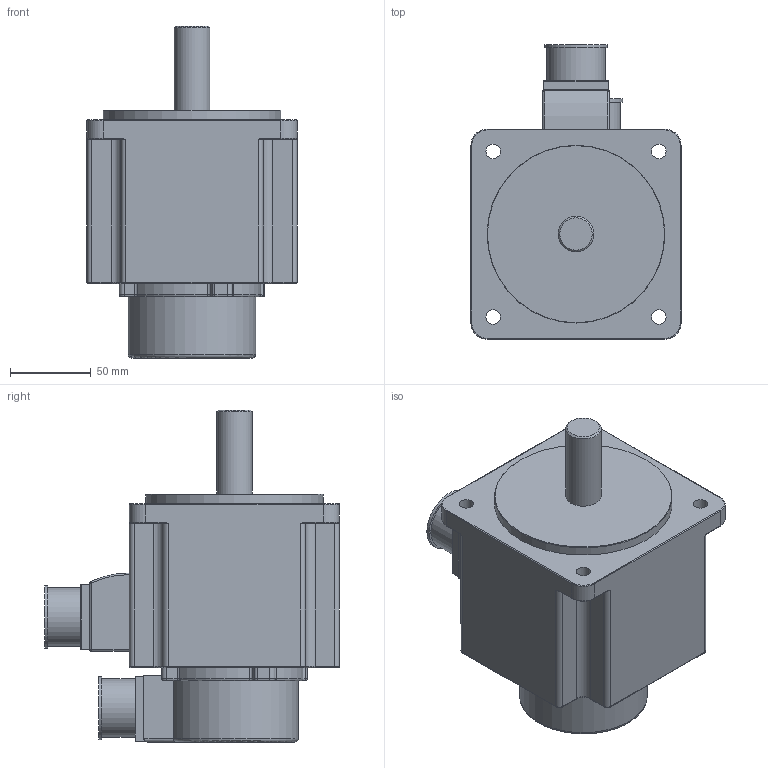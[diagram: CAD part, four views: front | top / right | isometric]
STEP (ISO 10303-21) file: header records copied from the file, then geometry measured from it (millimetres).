
FILE_DESCRIPTION(/* description */ (''),/* implementation_level */ '2;1');
FILE_NAME(/* name */ '130MSL04820(4Nm、4.77Nm、5Nm).stp',/* time_stamp */ '2019-11-22T13:46:19+08:00',/* author */ (''),/* organization */ (''),/* preprocessor_version */ 'ST-DEVELOPER v16',/* originating_system */ 'SIEMENS PLM Software NX 10.0',/* authorisation */ '');
FILE_SCHEMA (('CONFIG_CONTROL_DESIGN'));
Length unit declared in the file: millimetre
Products named in the file (1): 130MSL04820(4Nm、4.77Nm、5Nm)
Bounding box: 130 x 182.5 x 205.5 mm (x, y, z)
Volume: 2009017.1 mm3; surface area: 116776.9 mm2
Topology: 1 solids, 1 shells, 254 faces, 605 edges, 343 vertices
Faces by surface type: cylinder 117, plane 60, torus 55, sphere 12, bspline 8, cone 2
Full cylindrical faces by diameter (mm): 9 x4, 22 x1, 36 x2, 39 x2, 110 x1
Entity records: 7294 total; most frequent: CARTESIAN_POINT 1396, DIRECTION 1339, ORIENTED_EDGE 1138, EDGE_CURVE 569, AXIS2_PLACEMENT_3D 545, VERTEX_POINT 337, CIRCLE 296, EDGE_LOOP 282
